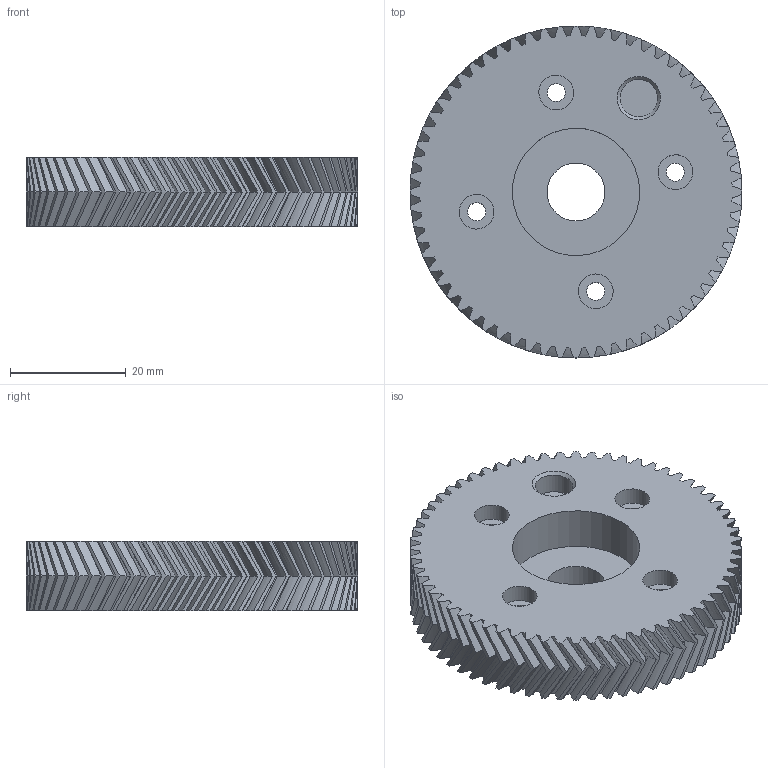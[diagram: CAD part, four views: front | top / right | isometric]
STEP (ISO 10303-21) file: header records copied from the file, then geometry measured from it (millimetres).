
FILE_DESCRIPTION(/* description */ (''),/* implementation_level */ '2;1');
FILE_NAME(/* name */ 'D:\Documents\Projects\Pan Tilt Mount\CAD STEP files\64 Tooth Herringbone Gear.stp',/* time_stamp */ '2020-06-08T18:42:10+01:00',/* author */ ('isaac879'),/* organization */ (''),/* preprocessor_version */ 'ST-DEVELOPER v18',/* originating_system */ 'Autodesk Inventor 2020',/* authorisation */ '');
FILE_SCHEMA (('AUTOMOTIVE_DESIGN { 1 0 10303 214 3 1 1 }'));
Length unit declared in the file: millimetre
Products named in the file (1): 64 Tooth Herringbone Gear
Bounding box: 57.31 x 57.31 x 12 mm (x, y, z)
Volume: 25298.7 mm3; surface area: 10191.8 mm2
Topology: 1 solids, 1 shells, 468 faces, 1268 edges, 808 vertices
Faces by surface type: bspline 384, cylinder 75, plane 8, cone 1
Full cylindrical faces by diameter (mm): 3.1 x4, 6 x4, 6.5 x1, 10 x1, 22 x1
Entity records: 20309 total; most frequent: CARTESIAN_POINT 11697, ORIENTED_EDGE 2536, EDGE_CURVE 1268, B_SPLINE_CURVE_WITH_KNOTS 1088, VERTEX_POINT 808, DIRECTION 518, EDGE_LOOP 484, FACE_OUTER_BOUND 468
